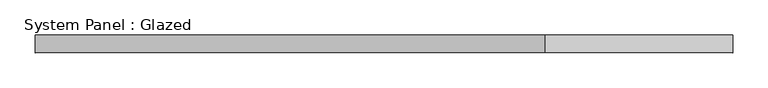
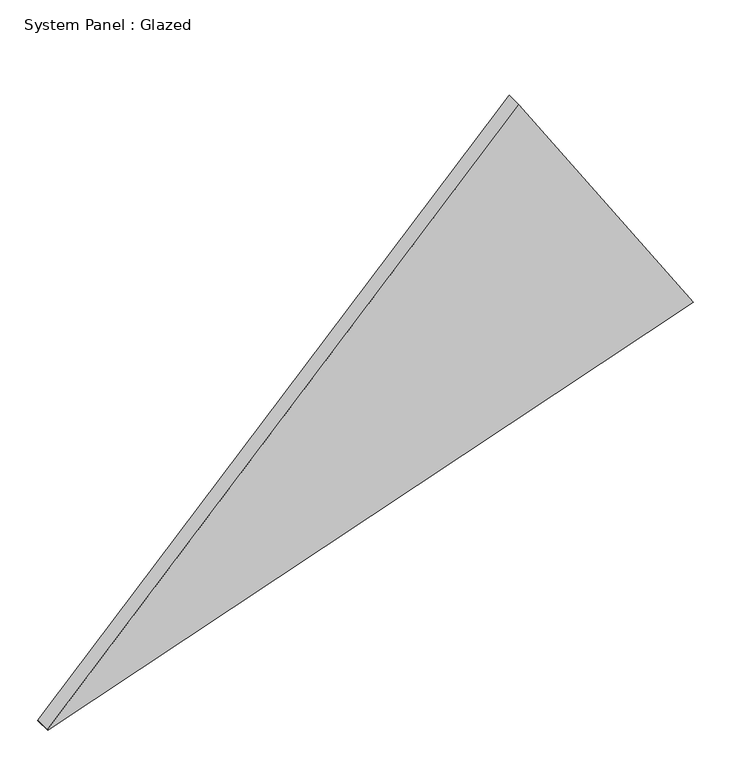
"""IFC4 building model written with IfcOpenShell, lengths in millimetres: plate geometry, System Panel : Glazed."""

from ifc_helpers import new_model, si_unit, frame, origin, place, context, project, spatial, polyline, outline, extrude, source, transform, mapped, element, save


def system_panel_glazed_7529af5e(model_context):
    return source(origin(), model_context, "Body", "SweptSolid", [
        extrude(outline(polyline([(1.0055366, -496.7414833), (0.0, -496.091418), (348.507498, 496.7414833), (763.274122, 228.6006772), (1.0055366, -496.7414833)])), frame((0.0, -44.45, 0.0), z_axis=(0.0, 1.0, 0.0), x_axis=(0.0, 0.0, 1.0)), (0.0, 0.0, 1.0), 25.4),
    ])


if __name__ == "__main__":
    model = new_model("IFC4")
    model_context = context("Model", 3, world=origin())
    ifc_project = project(units=[si_unit("LENGTHUNIT", "METRE", prefix="MILLI")], contexts=[model_context])
    site = spatial("IfcSite", under=ifc_project)
    building = spatial("IfcBuilding", under=site)
    placement = place(None, origin())
    system_panel_glazed_shape = system_panel_glazed_7529af5e(model_context)
    element("IfcPlate", 1, ObjectType="System Panel : Glazed", at=placement, inside=building, context=model_context, shape_type="MappedRepresentation", body=[
        mapped(system_panel_glazed_shape, transform((0.0, 0.0, 0.0), x_axis=(1.0, 0.0, 0.0), y_axis=(0.0, 1.0, 0.0), z_axis=(0.0, 0.0, 1.0))),
    ])
    save(model, "model.ifc")
